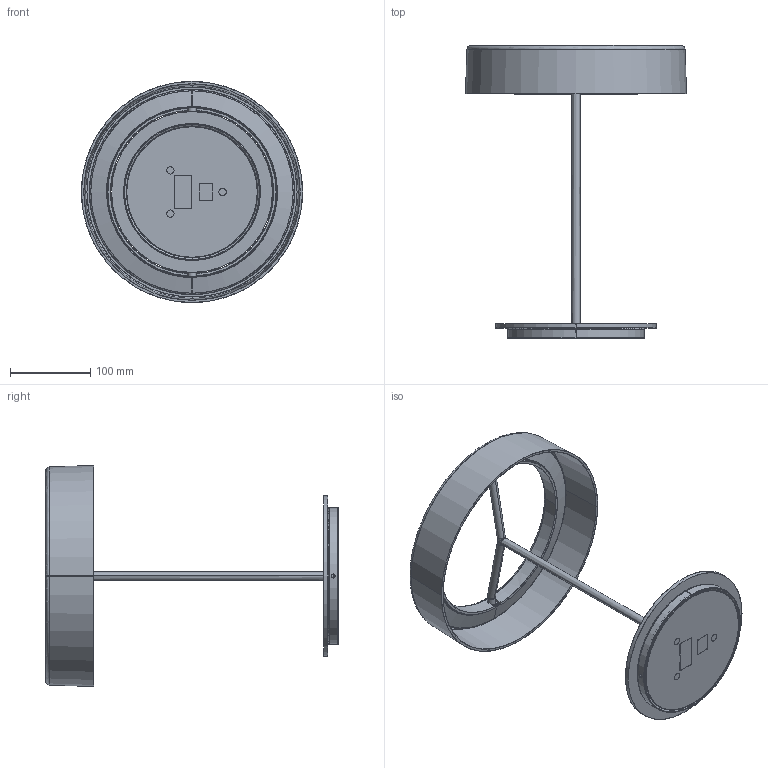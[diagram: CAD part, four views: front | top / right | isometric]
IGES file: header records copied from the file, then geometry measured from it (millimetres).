
Start section: SolidWorks IGES file using analytic representation for surfaces
Global section: file name: Z:\06 Dpto. Tecnico\Revit\IGS\Sobremesa SIN S_cpantalla.IGS; native system: SolidWorks 2019; preprocessor: SolidWorks 2019; author: GabrielG; date: 200326.125008; units: millimetre
Bounding box: 274.99 x 364.18 x 274.99 mm (x, y, z)
Surface area: 555679.8 mm2 (no closed solid volume)
Topology: 0 solids, 0 shells, 531 faces, 9704 edges, 9672 vertices
Faces by surface type: revolution 330, bspline 201
